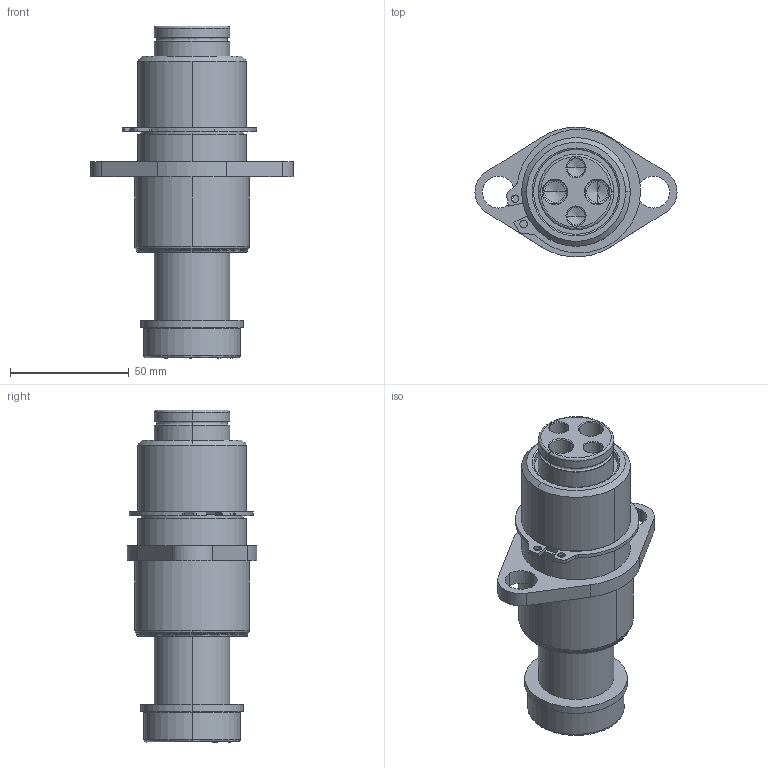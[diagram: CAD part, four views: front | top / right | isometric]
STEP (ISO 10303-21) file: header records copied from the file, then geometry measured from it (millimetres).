
FILE_DESCRIPTION (( 'STEP AP214' ), '1' );
FILE_NAME ('GK120-N3-2-BP-M-XXX.STEP', '2020-09-21T16:05:30', ( '' ), ( '' ), 'SwSTEP 2.0', 'SolidWorks 2017', '' );
FILE_SCHEMA (( 'AUTOMOTIVE_DESIGN' ));
Length unit declared in the file: inch
Products named in the file (7): GK120-M-XXX-GuidePin; RetainingRing; GK1.25-N3-2-BP-Base; GK120-N3-2-BP-M-XXX; GK120-DampeningWasher
Assembly tree (6 placements, depth 3):
  GK120-N3-2-BP-M-XXX
    GK1.25-N3-2-BP-Base
      GK1.25-N3-2-BP-Base
      RetainingRing
    GK120-M-XXX-GuidePin
      GK120-M-XXX-GuidePin
      GK120-DampeningWasher
Bounding box: 85.09 x 54.52 x 139.7 mm (x, y, z)
Volume: 195119 mm3; surface area: 48646.7 mm2
Topology: 4 solids, 4 shells, 151 faces, 351 edges, 214 vertices
Faces by surface type: cylinder 67, bspline 30, cone 30, plane 24
Entity records: 5888 total; most frequent: CARTESIAN_POINT 1983, DIRECTION 757, ORIENTED_EDGE 686, EDGE_CURVE 343, AXIS2_PLACEMENT_3D 312, VERTEX_POINT 214, CIRCLE 180, EDGE_LOOP 177
